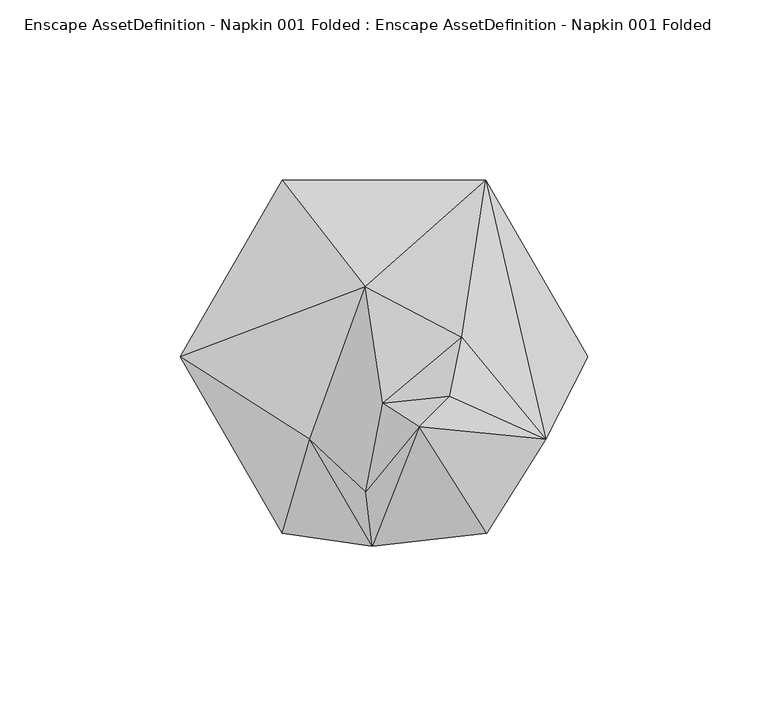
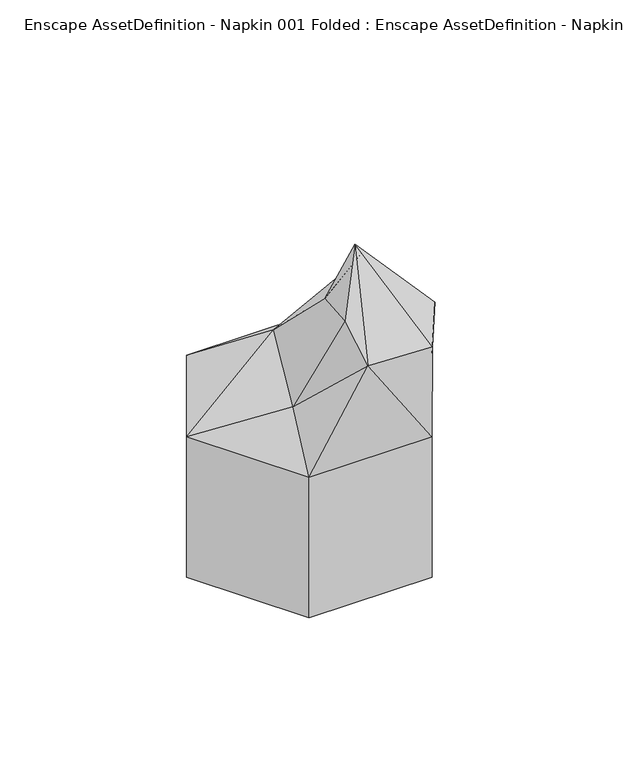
"""IFC4 building model written with IfcOpenShell, lengths in millimetres: geographic element geometry, Enscape AssetDefinition - Napkin 001 Folded : Enscape AssetDefinition - Napkin 001 Folded."""

from ifc_helpers import new_model, si_unit, origin, place, context, project, spatial, triangles, source, transform, mapped, element, save


def enscape_assetdefinition_napkin_001_folded_enscape_e3453064(model_context):
    return source(origin(), model_context, "Body", "Tessellation", [
        triangles([(28.2712486, 48.7779547, -0.0476395), (28.2712486, 48.7779547, 68.3444793), (-28.2866614, 48.7779547, -0.0476395), (-28.2866614, -49.183594, -0.0476395), (28.2712486, -49.183594, -0.0476395), (56.5502047, -0.2024679, -0.0476395), (-56.5656107, -0.2024679, -0.0476395), (-56.5656107, -0.2024679, 68.3444793), (-28.2866614, 48.7779547, 68.3444793), (-5.1499712, 19.2057295, 90.6958176), (-28.2866614, -49.183594, 68.3444793), (28.2712486, -49.183594, 68.3444793), (56.5502047, -0.2024679, 68.3444793), (-3.27942, -52.833621, 116.1962687), (9.8326552, -19.6940332, 150.7258108), (-20.6384182, -23.1100697, 84.21896), (18.2473339, -11.1840773, 139.0240178), (-0.3285725, -13.1737269, 123.8970614), (-5.0308725, -37.6296117, 129.4393557), (28.4639103, -49.183594, 112.1336079), (21.5232525, 5.2389448, 120.0186462), (44.831584, -23.1100697, 112.1336079)], [[22, 21, 17], [22, 2, 21], [13, 2, 22], [20, 13, 22], [20, 22, 15], [22, 17, 15], [17, 21, 18], [18, 19, 15], [15, 17, 18], [21, 2, 10], [21, 10, 18], [10, 16, 18], [18, 16, 19], [19, 14, 15], [14, 20, 15], [16, 14, 19], [12, 13, 20], [14, 12, 20], [11, 12, 14], [16, 11, 14], [11, 5, 12], [8, 11, 16], [10, 8, 16], [9, 8, 10], [2, 9, 10], [9, 7, 8], [7, 4, 8], [4, 5, 11], [8, 4, 11], [5, 6, 12], [5, 4, 6], [12, 6, 13], [3, 7, 9], [4, 3, 6], [7, 3, 4], [2, 3, 9], [6, 1, 13], [1, 3, 2], [13, 1, 2], [3, 1, 6]]),
    ])


if __name__ == "__main__":
    model = new_model("IFC4")
    model_context = context("Model", 3, world=origin())
    ifc_project = project(units=[si_unit("LENGTHUNIT", "METRE", prefix="MILLI")], contexts=[model_context])
    site = spatial("IfcSite", under=ifc_project)
    building = spatial("IfcBuilding", under=site)
    placement = place(None, origin())
    enscape_assetdefinition_napkin_001_folded_enscape_shape = enscape_assetdefinition_napkin_001_folded_enscape_e3453064(model_context)
    element("IfcGeographicElement", 1, ObjectType="Enscape AssetDefinition - Napkin 001 Folded : Enscape AssetDefinition - Napkin 001 Folded", at=placement, inside=building, context=model_context, shape_type="MappedRepresentation", body=[
        mapped(enscape_assetdefinition_napkin_001_folded_enscape_shape, transform((0.0, 0.0, 0.0), x_axis=(1.0, 0.0, 0.0), y_axis=(0.0, 1.0, 0.0), z_axis=(0.0, 0.0, 1.0))),
    ])
    save(model, "model.ifc")
